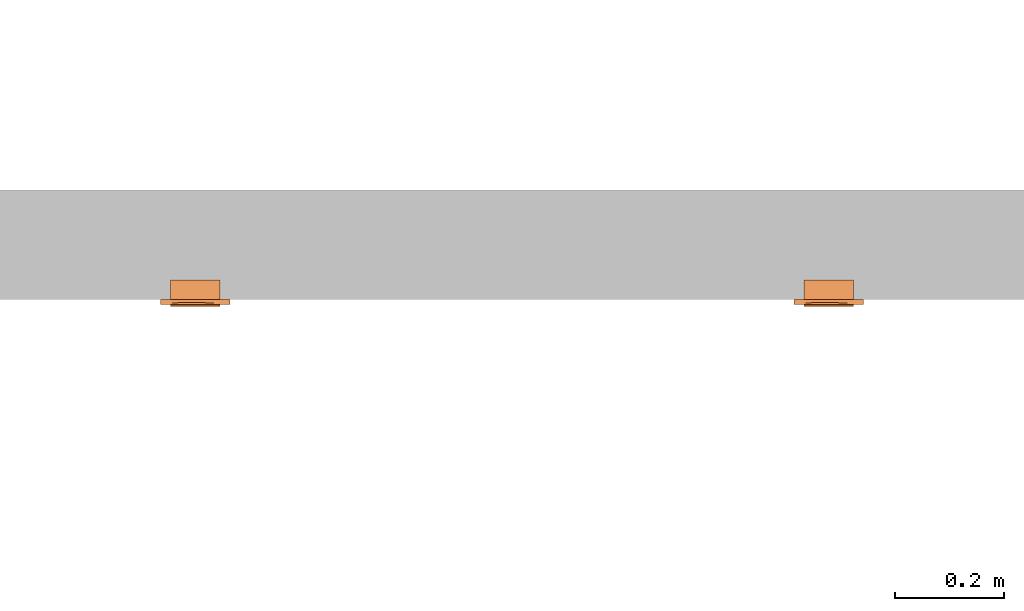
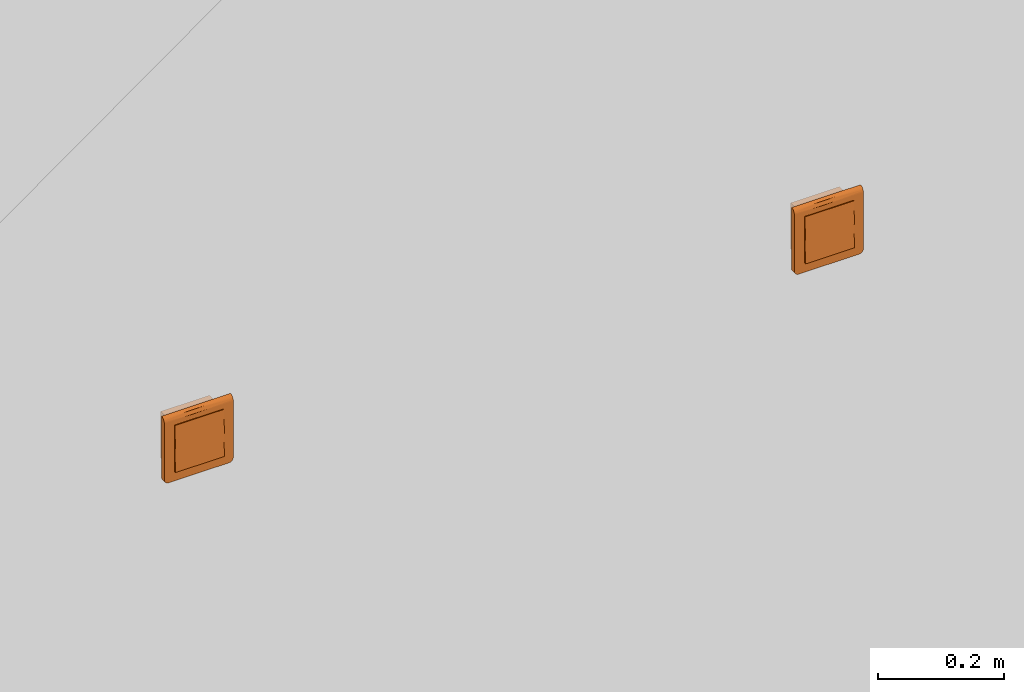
# One storey, part 176 of 197: 2 proxies.
"""IFC2X3 building model written with IfcOpenShell, lengths in metres."""

import ifcopenshell
import ifcopenshell.guid

model = None  # the IFC model being written
_history = None  # IfcOwnerHistory: only IFC2X3 demands one
_inside = {}  # id of a spatial element -> (the spatial element, [elements in it])
_under = {}  # id of a project, library or spatial element -> (it, [spatial elements below it])
_declared = {}  # id of a project -> (the project, [libraries it declares])
_typed = {}  # id of a type object -> (the type object, [elements of that type])
_made_of = {}  # id of a material, layer set ... -> (it, [elements and type objects made of it])


def new_model(schema):
    """Start an empty IFC model of exactly this schema.

    Asked for "IFC4X3", IfcOpenShell would pick the latest addendum, in which some entities
    have other attributes; the version numbers below select the first issue.
    IFC2X3 requires an IfcOwnerHistory on every rooted entity: one is made here for all.
    """
    global model, _history
    if schema == "IFC4X3":
        model = ifcopenshell.file(schema_version=(4, 3, 0, 0))
    else:
        model = ifcopenshell.file(schema=schema)
    _inside.clear()
    _under.clear()
    _declared.clear()
    _typed.clear()
    _made_of.clear()
    _history = None
    if model.schema == "IFC2X3":
        org = make("IfcOrganization", Name="unknown")
        user = make(
            "IfcPersonAndOrganization",
            ThePerson=make("IfcPerson", FamilyName="unknown"),
            TheOrganization=org,
        )
        app = make(
            "IfcApplication",
            ApplicationDeveloper=org,
            Version="unknown",
            ApplicationFullName="unknown",
            ApplicationIdentifier="unknown",
        )
        _history = make(
            "IfcOwnerHistory",
            OwningUser=user,
            OwningApplication=app,
            ChangeAction="ADDED",
            CreationDate=0,
        )
    return model


def make(cls, **values):
    """One entity of the class cls with the attributes given. An attribute that is None is left unset."""
    return model.create_entity(
        cls, **{name: value for name, value in values.items() if value is not None}
    )


def entity(cls, *values):
    """Any entity or typed value of the class cls, its attributes in the order of the schema. None: left unset."""
    e = model.create_entity(cls)
    for i, value in enumerate(values):
        if value is not None:
            e[i] = value
    return e


def rooted(cls, **values):
    """An entity with a GlobalId (a new one), such as an element, a storey or a relation."""
    return make(cls, GlobalId=ifcopenshell.guid.new(), OwnerHistory=_history, **values)


def si_unit(unit_type, name, prefix=None):
    """IfcSIUnit, for example si_unit("LENGTHUNIT", "METRE", prefix="MILLI")."""
    return make("IfcSIUnit", UnitType=unit_type, Prefix=prefix, Name=name)


def converted_unit(unit_type, name, factor, base, dimensions=None, offset=None):
    """IfcConversionBasedUnit, such as the inch: factor (a typed value) times the base unit."""
    return make(
        "IfcConversionBasedUnit"
        if offset is None
        else "IfcConversionBasedUnitWithOffset",
        ConversionOffset=offset,
        Dimensions=None
        if dimensions is None
        else entity("IfcDimensionalExponents", *dimensions),
        UnitType=unit_type,
        Name=name,
        ConversionFactor=make(
            "IfcMeasureWithUnit", ValueComponent=factor, UnitComponent=base
        ),
    )


def assignment(units):
    """IfcUnitAssignment: the units of a project."""
    return None if units is None else make("IfcUnitAssignment", Units=units)


def point(xyz):
    """IfcCartesianPoint."""
    return None if xyz is None else make("IfcCartesianPoint", Coordinates=xyz)


def direction(xyz):
    """IfcDirection."""
    return None if xyz is None else make("IfcDirection", DirectionRatios=xyz)


def frame(location, z_axis=None, x_axis=None):
    """IfcAxis2Placement3D, a coordinate frame: its origin and axes. An axis left out is left unset."""
    return make(
        "IfcAxis2Placement3D",
        Location=point(location),
        Axis=direction(z_axis),
        RefDirection=direction(x_axis),
    )


def origin():
    """The frame at (0, 0, 0) with its axes left unset."""
    return frame((0.0, 0.0, 0.0))


def place(relative_to, where):
    """IfcLocalPlacement: puts the frame where relative to a parent placement (None: the world)."""
    return make(
        "IfcLocalPlacement", PlacementRelTo=relative_to, RelativePlacement=where
    )


def context(
    kind, dimensions, precision=None, world=None, true_north=None, identifier=None
):
    """IfcGeometricRepresentationContext, for example the 3D "Model" context."""
    return make(
        "IfcGeometricRepresentationContext",
        ContextIdentifier=identifier,
        ContextType=kind,
        CoordinateSpaceDimension=dimensions,
        Precision=precision,
        WorldCoordinateSystem=world,
        TrueNorth=true_north,
    )


def subcontext(parent, identifier, kind, view, scale=None):
    """IfcGeometricRepresentationSubContext, for example "Body" below "Model"."""
    return make(
        "IfcGeometricRepresentationSubContext",
        ContextIdentifier=identifier,
        ContextType=kind,
        ParentContext=parent,
        TargetScale=scale,
        TargetView=view,
    )


def project(units=None, contexts=None):
    """IfcProject with its units and contexts."""
    return rooted(
        "IfcProject",
        Name="project",
        RepresentationContexts=contexts,
        UnitsInContext=assignment(units),
    )


def spatial(cls, under=None, at=None, **own):
    """A site, building, storey or space (cls), placed at a placement, below another one or the project."""
    s = rooted(cls, ObjectPlacement=at, **own)
    if under is not None:
        _under.setdefault(under.id(), (under, []))[1].append(s)
    return s


def faces_of(points, faces, orient=None, outer=None):
    """IfcFace entities. A face is a list of loops; a loop is a list of indices into points, from 0.

    orient and outer hold one flag for each loop. By default every Orientation is true, the
    first loop of a face is its IfcFaceOuterBound and the others are IfcFaceBound.
    """
    made = []
    for i, loops in enumerate(faces):
        bounds = []
        for j, loop in enumerate(loops):
            is_outer = j == 0 if outer is None else outer[i][j]
            bounds.append(
                make(
                    "IfcFaceOuterBound" if is_outer else "IfcFaceBound",
                    Bound=make("IfcPolyLoop", Polygon=[points[k] for k in loop]),
                    Orientation=True if orient is None else orient[i][j],
                )
            )
        made.append(make("IfcFace", Bounds=bounds))
    return made


def faceted_brep(points, faces, orient=None, outer=None, voids=None):
    """IfcFacetedBrep: a solid bounded by flat faces; with voids (closed shells), ...WithVoids."""
    shared = [point(p) for p in points]
    hull = make("IfcClosedShell", CfsFaces=faces_of(shared, faces, orient, outer))
    if voids is None:
        return make("IfcFacetedBrep", Outer=hull)
    return make(
        "IfcFacetedBrepWithVoids",
        Outer=hull,
        Voids=[
            make(cls, CfsFaces=faces_of(shared, fs, o, b)) for cls, fs, o, b in voids
        ],
    )


def shape(context_of_items, identifier, shape_type, items):
    """IfcShapeRepresentation: the items that make up one representation, for example the "Body"."""
    return make(
        "IfcShapeRepresentation",
        ContextOfItems=context_of_items,
        RepresentationIdentifier=identifier,
        RepresentationType=shape_type,
        Items=items,
    )


def source(mapping_origin, context_of_items, identifier, shape_type, items):
    """IfcRepresentationMap: a shape defined once, which mapped items show again and again."""
    return make(
        "IfcRepresentationMap",
        MappingOrigin=mapping_origin,
        MappedRepresentation=shape(context_of_items, identifier, shape_type, items),
    )


def transform(
    local_origin,
    x_axis=None,
    y_axis=None,
    z_axis=None,
    scale=None,
    scale2=None,
    scale3=None,
    uniform=True,
):
    """IfcCartesianTransformationOperator3D, or its non-uniform kind. x_axis, y_axis, z_axis: its Axis1, 2, 3."""
    if uniform:
        return make(
            "IfcCartesianTransformationOperator3D",
            Axis1=direction(x_axis),
            Axis2=direction(y_axis),
            LocalOrigin=point(local_origin),
            Scale=scale,
            Axis3=direction(z_axis),
        )
    return make(
        "IfcCartesianTransformationOperator3DnonUniform",
        Axis1=direction(x_axis),
        Axis2=direction(y_axis),
        LocalOrigin=point(local_origin),
        Scale=scale,
        Axis3=direction(z_axis),
        Scale2=scale2,
        Scale3=scale3,
    )


def mapped(mapping_source, mapping_target):
    """IfcMappedItem: shows the shape of a source again, moved by a transform."""
    return make(
        "IfcMappedItem", MappingSource=mapping_source, MappingTarget=mapping_target
    )


def material(Name=None, Category=None):
    """IfcMaterial."""
    return make("IfcMaterial", Name=Name, Category=Category)


def material_list(materials):
    """IfcMaterialList."""
    return make("IfcMaterialList", Materials=materials)


def made_of(thing, what):
    """Note that an element or type object is made of a material, layer set ...; save() writes the relation."""
    if what is not None:
        _made_of.setdefault(what.id(), (what, []))[1].append(thing)
    return thing


def type_object(cls, material=None, **own):
    """A type object (cls), such as IfcWallType, which elements share."""
    return made_of(rooted(cls, **own), material)


def type_shapes(of_type, sources):
    """Give a type object the sources (RepresentationMaps) that its elements show as mapped items."""
    of_type.RepresentationMaps = sources


def element(
    cls,
    number,
    at=None,
    inside=None,
    cuts=None,
    type_object=None,
    material=None,
    context=None,
    identifier="Body",
    shape_type=None,
    held_by="IfcProductDefinitionShape",
    body=None,
    shapes=None,
    **own,
):
    """One element of the class cls, such as IfcWall. Its Tag is "e" and its number.

    at: its placement. inside: the storey or other place that contains it. cuts: it is an
    opening in that element (IfcRelVoidsElement). A single representation is given by context,
    identifier, shape_type and body (its items); several are given by shapes. held_by: the class
    of the entity that holds the representations. save() writes the other relations.
    """
    e = rooted(cls, Tag="e%d" % number, ObjectPlacement=at, **own)
    if body is not None:
        shapes = [shape(context, identifier, shape_type, body)]
    if shapes is not None:
        e.Representation = make(held_by, Representations=shapes)
    if inside is not None:
        _inside.setdefault(inside.id(), (inside, []))[1].append(e)
    if cuts is not None:
        rooted(
            "IfcRelVoidsElement", RelatingBuildingElement=cuts, RelatedOpeningElement=e
        )
    if type_object is not None:
        _typed.setdefault(type_object.id(), (type_object, []))[1].append(e)
    return made_of(e, material)


def aggregate(whole, parts):
    """IfcRelAggregates: a whole, such as a stair, and the parts it consists of."""
    return rooted("IfcRelAggregates", RelatingObject=whole, RelatedObjects=parts)


def save(model, path):
    """Write the relations noted so far, then the file.

    IfcRelAggregates (storeys below a building ...), IfcRelContainedInSpatialStructure (elements
    in a storey), IfcRelDefinesByType, IfcRelAssociatesMaterial and IfcRelDeclares: one each for
    every whole, place, type object, material and project.
    """
    for whole, parts in _under.values():
        aggregate(whole, parts)
    for where, things in _inside.values():
        rooted(
            "IfcRelContainedInSpatialStructure",
            RelatedElements=things,
            RelatingStructure=where,
        )
    for kind, things in _typed.values():
        rooted("IfcRelDefinesByType", RelatedObjects=things, RelatingType=kind)
    for what, things in _made_of.values():
        rooted("IfcRelAssociatesMaterial", RelatedObjects=things, RelatingMaterial=what)
    for by, libraries in _declared.values():
        rooted("IfcRelDeclares", RelatingContext=by, RelatedDefinitions=libraries)
    model.write(path)


model = new_model("IFC2X3")

# Units and contexts
model_context = context("Model", 3, precision=1e-05, world=origin(), true_north=direction((6.123031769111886e-17, 1.0)))
body_context = subcontext(model_context, "Body", "Model", "MODEL_VIEW")
ifc_project = project(units=[si_unit("LENGTHUNIT", "METRE"), converted_unit("PLANEANGLEUNIT", "DEGREE", entity("IfcPlaneAngleMeasure", 0.017453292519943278), si_unit("PLANEANGLEUNIT", "RADIAN"), dimensions=[0, 0, 0, 0, 0, 0, 0]), si_unit("AREAUNIT", "SQUARE_METRE")], contexts=[model_context])

# Site, building, storey
site_placement = place(None, origin())
site = spatial("IfcSite", under=ifc_project, at=site_placement, Name="Default", CompositionType="ELEMENT")
building_placement = place(site_placement, origin())
building = spatial("IfcBuilding", under=site, at=building_placement, CompositionType="ELEMENT")
storey_placement = place(building_placement, origin())
storey = spatial("IfcBuildingStorey", under=building, at=storey_placement, Name="Niveau 0", CompositionType="ELEMENT", Elevation=0.0)

# Proxies
ifc_material_1 = material(Name="<Unnamed>")
ifc_material_2 = material(Name="BETCE-DOIGT-BLANC")
ifc_material_3 = material(Name="BETCE-ENJOLIVEUR-BLANC")
ifc_material_list = material_list([ifc_material_1, ifc_material_2, ifc_material_3])
building_element_proxy_type_1 = type_object("IfcBuildingElementProxyType", Name="Tableau commande 2x4 modules encastré:5 BP + 3 SA", PredefinedType="NOTDEFINED", material=ifc_material_list)
shared_shape_1 = source(origin(), body_context, "Body", "Brep", [
    faceted_brep([(0.04499999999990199, 0.0, 0.0), (0.04499999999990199, 0.03499999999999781, 0.0), (0.022499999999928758, 0.03499999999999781, 0.0), (0.022499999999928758, 0.0, 0.0), (0.04499999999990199, 0.0, -0.045000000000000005), (0.022499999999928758, 0.0, -0.045000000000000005), (0.022499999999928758, 0.03499999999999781, -0.045000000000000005), (0.04499999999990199, 0.03499999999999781, -0.045000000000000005)], [[[0, 1, 2, 3]], [[4, 5, 6, 7]], [[1, 0, 4, 7]], [[2, 1, 7, 6]], [[3, 2, 6, 5]], [[0, 3, 5, 4]]]),
    faceted_brep([(0.04499999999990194, 0.0, 0.045000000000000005), (0.04499999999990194, 0.03499999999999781, 0.045000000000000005), (0.022499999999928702, 0.03499999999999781, 0.045000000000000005), (0.022499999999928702, 0.0, 0.045000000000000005), (0.04499999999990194, 0.0, 0.0), (0.022499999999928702, 0.0, 0.0), (0.022499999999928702, 0.03499999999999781, 0.0), (0.04499999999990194, 0.03499999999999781, 0.0)], [[[0, 1, 2, 3]], [[4, 5, 6, 7]], [[1, 0, 4, 7]], [[2, 1, 7, 6]], [[3, 2, 6, 5]], [[0, 3, 5, 4]]]),
    faceted_brep([(0.022499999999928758, 0.0, 0.0), (0.022499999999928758, 0.03499999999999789, 0.0), (0.0, 0.03499999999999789, 0.0), (0.0, 0.0, 0.0), (0.022499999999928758, 0.0, -0.045000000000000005), (0.0, 0.0, -0.045000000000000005), (0.0, 0.03499999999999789, -0.045000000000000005), (0.022499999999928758, 0.03499999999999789, -0.045000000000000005)], [[[0, 1, 2, 3]], [[4, 5, 6, 7]], [[1, 0, 4, 7]], [[2, 1, 7, 6]], [[3, 2, 6, 5]], [[0, 3, 5, 4]]]),
    faceted_brep([(0.0224999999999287, 0.0, 0.045000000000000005), (0.0224999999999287, 0.03499999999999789, 0.045000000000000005), (0.0, 0.03499999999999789, 0.045000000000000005), (0.0, 0.0, 0.045000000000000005), (0.0224999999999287, 0.0, 0.0), (0.0, 0.0, 0.0), (0.0, 0.03499999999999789, 0.0), (0.0224999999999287, 0.03499999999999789, 0.0)], [[[0, 1, 2, 3]], [[4, 5, 6, 7]], [[1, 0, 4, 7]], [[2, 1, 7, 6]], [[3, 2, 6, 5]], [[0, 3, 5, 4]]]),
    faceted_brep([(0.0, 0.0, 0.0), (0.0, 0.034999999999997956, 0.0), (-0.022500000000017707, 0.034999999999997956, 0.0), (-0.022500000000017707, 0.0, 0.0), (0.0, 0.0, -0.045000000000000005), (-0.022500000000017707, 0.0, -0.045000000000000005), (-0.022500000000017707, 0.034999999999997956, -0.045000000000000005), (0.0, 0.034999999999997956, -0.045000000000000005)], [[[0, 1, 2, 3]], [[4, 5, 6, 7]], [[1, 0, 4, 7]], [[2, 1, 7, 6]], [[3, 2, 6, 5]], [[0, 3, 5, 4]]]),
    faceted_brep([(0.0, 0.0, 0.045000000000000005), (0.0, 0.034999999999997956, 0.045000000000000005), (-0.022500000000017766, 0.034999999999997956, 0.045000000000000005), (-0.022500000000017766, 0.0, 0.045000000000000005), (0.0, 0.0, 0.0), (-0.022500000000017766, 0.0, 0.0), (-0.022500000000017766, 0.034999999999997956, 0.0), (0.0, 0.034999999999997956, 0.0)], [[[0, 1, 2, 3]], [[4, 5, 6, 7]], [[1, 0, 4, 7]], [[2, 1, 7, 6]], [[3, 2, 6, 5]], [[0, 3, 5, 4]]]),
    faceted_brep([(-0.02250000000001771, 0.0, 0.0), (-0.02250000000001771, 0.034999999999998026, 0.0), (-0.044999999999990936, 0.034999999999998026, 0.0), (-0.044999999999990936, 0.0, 0.0), (-0.02250000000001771, 0.0, -0.045000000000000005), (-0.044999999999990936, 0.0, -0.045000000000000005), (-0.044999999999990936, 0.034999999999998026, -0.045000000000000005), (-0.02250000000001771, 0.034999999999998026, -0.045000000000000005)], [[[0, 1, 2, 3]], [[4, 5, 6, 7]], [[1, 0, 4, 7]], [[2, 1, 7, 6]], [[3, 2, 6, 5]], [[0, 3, 5, 4]]]),
    faceted_brep([(-0.022500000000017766, 0.0, 0.045000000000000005), (-0.022500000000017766, 0.034999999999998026, 0.045000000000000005), (-0.044999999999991, 0.034999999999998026, 0.045000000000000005), (-0.044999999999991, 0.0, 0.045000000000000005), (-0.022500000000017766, 0.0, 0.0), (-0.044999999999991, 0.0, 0.0), (-0.044999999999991, 0.034999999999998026, 0.0), (-0.022500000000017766, 0.034999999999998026, 0.0)], [[[0, 1, 2, 3]], [[4, 5, 6, 7]], [[1, 0, 4, 7]], [[2, 1, 7, 6]], [[3, 2, 6, 5]], [[0, 3, 5, 4]]]),
    faceted_brep([(0.022499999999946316, 0.0, -0.045000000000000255), (0.022499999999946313, 0.0, 0.0), (0.04499999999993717, 0.0, 0.0), (0.04499999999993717, 0.0, -0.045000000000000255), (0.022499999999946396, -0.012750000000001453, -0.045000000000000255), (0.022499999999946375, -0.010500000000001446, 0.0), (0.044999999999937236, -0.010500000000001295, 0.0), (0.04499999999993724, -0.012750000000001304, -0.045000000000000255)], [[[0, 1, 2, 3]], [[1, 0, 4, 5]], [[2, 1, 5, 6]], [[3, 2, 6, 7]], [[0, 3, 7, 4]], [[5, 4, 7, 6]]]),
    faceted_brep([(0.0, 0.0, -0.04500000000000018), (0.0, 0.0, 0.0), (0.022499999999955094, 0.0, 0.0), (0.022499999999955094, 0.0, -0.04500000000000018), (0.0, -0.012750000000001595, -0.04500000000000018), (0.0, -0.010500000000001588, 0.0), (0.022499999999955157, -0.01050000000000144, 0.0), (0.022499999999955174, -0.012750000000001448, -0.04500000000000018)], [[[0, 1, 2, 3]], [[1, 0, 4, 5]], [[2, 1, 5, 6]], [[3, 2, 6, 7]], [[0, 3, 7, 4]], [[5, 4, 7, 6]]]),
    faceted_brep([(-0.022500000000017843, 0.0, -0.0450000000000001), (-0.022500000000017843, 0.0, 0.0), (0.0, 0.0, 0.0), (0.0, 0.0, -0.0450000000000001), (-0.02250000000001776, -0.012750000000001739, -0.0450000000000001), (-0.022500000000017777, -0.010500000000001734, 0.0), (0.0, -0.010500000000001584, 0.0), (0.0, -0.012750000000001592, -0.0450000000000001)], [[[0, 1, 2, 3]], [[1, 0, 4, 5]], [[2, 1, 5, 6]], [[3, 2, 6, 7]], [[0, 3, 7, 4]], [[5, 4, 7, 6]]]),
    faceted_brep([(-0.04499999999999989, 0.0, -0.045000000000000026), (-0.04499999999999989, 0.0, 0.0), (-0.022500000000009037, 0.0, 0.0), (-0.022500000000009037, 0.0, -0.045000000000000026), (-0.04499999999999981, -0.012750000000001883, -0.045000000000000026), (-0.04499999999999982, -0.010500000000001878, 0.0), (-0.022500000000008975, -0.01050000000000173, 0.0), (-0.022500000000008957, -0.012750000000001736, -0.045000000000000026)], [[[0, 1, 2, 3]], [[1, 0, 4, 5]], [[2, 1, 5, 6]], [[3, 2, 6, 7]], [[0, 3, 7, 4]], [[5, 4, 7, 6]]]),
    faceted_brep([(0.02249999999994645, -0.010500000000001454, 0.04499999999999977), (0.022499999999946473, -0.012750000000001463, 0.0), (0.04499999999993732, -0.012750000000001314, 0.0), (0.044999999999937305, -0.010500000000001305, 0.04499999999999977), (0.022499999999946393, 0.0, 0.0), (0.02249999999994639, 0.0, 0.04499999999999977), (0.04499999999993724, 0.0, 0.04499999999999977), (0.04499999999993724, 0.0, 0.0)], [[[0, 1, 2, 3]], [[4, 5, 6, 7]], [[5, 4, 1, 0]], [[6, 5, 0, 3]], [[7, 6, 3, 2]], [[4, 7, 2, 1]]]),
    faceted_brep([(0.0, -0.010500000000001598, 0.044999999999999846), (0.0, -0.012750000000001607, 0.0), (0.02249999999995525, -0.012750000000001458, 0.0), (0.022499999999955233, -0.010500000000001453, 0.044999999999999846), (0.0, 0.0, 0.0), (0.0, 0.0, 0.044999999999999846), (0.02249999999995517, 0.0, 0.04499999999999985), (0.02249999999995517, 0.0, 0.0)], [[[0, 1, 2, 3]], [[4, 5, 6, 7]], [[5, 4, 1, 0]], [[6, 5, 0, 3]], [[7, 6, 3, 2]], [[4, 7, 2, 1]]]),
    faceted_brep([(-0.0225000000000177, -0.010500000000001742, 0.04499999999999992), (-0.022500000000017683, -0.01275000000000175, 0.0), (0.0, -0.012750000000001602, 0.0), (0.0, -0.010500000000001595, 0.04499999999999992), (-0.022500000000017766, 0.0, 0.0), (-0.022500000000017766, 0.0, 0.04499999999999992), (0.0, 0.0, 0.04499999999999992), (0.0, 0.0, 0.0)], [[[0, 1, 2, 3]], [[4, 5, 6, 7]], [[5, 4, 1, 0]], [[6, 5, 0, 3]], [[7, 6, 3, 2]], [[4, 7, 2, 1]]]),
    faceted_brep([(-0.044999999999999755, -0.010500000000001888, 0.045), (-0.044999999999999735, -0.012750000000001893, 0.0), (-0.02250000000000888, -0.012750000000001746, 0.0), (-0.0225000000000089, -0.010500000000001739, 0.045), (-0.04499999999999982, 0.0, 0.0), (-0.04499999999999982, 0.0, 0.045), (-0.022500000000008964, 0.0, 0.045000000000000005), (-0.022500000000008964, 0.0, 0.0)], [[[0, 1, 2, 3]], [[4, 5, 6, 7]], [[5, 4, 1, 0]], [[6, 5, 0, 3]], [[7, 6, 3, 2]], [[4, 7, 2, 1]]]),
    faceted_brep([(0.06350000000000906, -0.009000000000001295, -0.055500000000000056), (0.06350000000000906, -0.009000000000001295, 0.05450000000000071), (0.045000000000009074, -0.00900000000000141, -0.045000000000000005), (0.055500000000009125, -0.009000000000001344, -0.06350000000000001), (0.057570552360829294, -0.009000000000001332, -0.06322740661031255), (0.06322740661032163, -0.009000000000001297, -0.05757055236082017), (0.04500000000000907, -0.00900000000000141, 0.045), (-0.044999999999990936, -0.00900000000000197, 0.045000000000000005), (-0.01112442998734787, -0.009000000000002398, 0.054500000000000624), (-0.06349999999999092, -0.009000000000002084, 0.05450000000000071), (-0.044999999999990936, -0.00900000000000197, -0.045000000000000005), (-0.06349999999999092, -0.009000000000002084, -0.05550000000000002), (-0.055499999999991, -0.009000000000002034, -0.06350000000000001), (-0.0575705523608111, -0.009000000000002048, -0.06322740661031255), (-0.06322740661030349, -0.009000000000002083, -0.05757055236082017), (-0.05949999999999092, -0.00900000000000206, -0.062428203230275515), (-0.062428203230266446, -0.009000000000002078, -0.05950000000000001), (-0.06115685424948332, -0.00900000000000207, -0.06115685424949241), (0.059500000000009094, -0.00900000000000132, -0.062428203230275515), (0.062428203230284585, -0.009000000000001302, -0.05949999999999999), (0.06115685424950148, -0.009000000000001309, -0.061156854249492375), (-0.063499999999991, 0.0, -0.05550000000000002), (-0.063499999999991, 0.0, 0.06350000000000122), (-0.044999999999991, 0.0, 0.045000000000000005), (-0.044999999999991, 0.0, -0.045000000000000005), (-0.055499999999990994, 0.0, -0.06350000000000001), (-0.06322740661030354, 0.0, -0.05757055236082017), (0.045000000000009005, 0.0, 0.045000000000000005), (0.011124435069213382, 0.0, 0.06350000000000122), (0.06350000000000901, 0.0, 0.0635), (0.06350000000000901, 0.0, -0.05550000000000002), (0.045000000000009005, 0.0, -0.045000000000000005), (0.05550000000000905, 0.0, -0.06350000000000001), (0.06322740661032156, 0.0, -0.05757055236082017), (0.057570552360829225, 0.0, -0.06322740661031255), (0.06242820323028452, 0.0, -0.05949999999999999), (0.05950000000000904, 0.0, -0.062428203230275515), (0.06115685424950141, 0.0, -0.061156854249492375), (-0.05757055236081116, 0.0, -0.06322740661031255), (-0.0624282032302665, 0.0, -0.05950000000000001), (-0.059499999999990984, 0.0, -0.062428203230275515), (-0.06115685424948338, 0.0, -0.06115685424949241), (0.06350000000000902, -0.00232937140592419, 0.06319333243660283), (0.06350000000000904, -0.004500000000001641, 0.06229422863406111), (0.06350000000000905, -0.006363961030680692, 0.06086396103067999), (0.06350000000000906, -0.007794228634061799, 0.05900000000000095), (0.06350000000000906, -0.008693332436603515, 0.056829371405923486), (-0.06349999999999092, -0.00869333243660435, 0.0568293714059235), (-0.06349999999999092, -0.007794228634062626, 0.059000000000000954), (-0.06349999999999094, -0.006363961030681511, 0.06086396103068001), (-0.06349999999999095, -0.004500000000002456, 0.062294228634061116), (-0.06349999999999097, -0.002329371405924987, 0.06319333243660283), (-0.010857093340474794, -0.006120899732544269, 0.06109807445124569)], [[[0, 1, 2]], [[3, 0, 2]], [[0, 3, 4]], [[5, 0, 4]], [[2, 1, 6]], [[1, 7, 6]], [[7, 1, 8]], [[7, 8, 9]], [[10, 7, 9]], [[11, 10, 9]], [[12, 10, 11]], [[12, 11, 13]], [[13, 11, 14]], [[15, 13, 14]], [[16, 15, 14]], [[15, 16, 17]], [[10, 12, 3]], [[2, 10, 3]], [[5, 4, 18]], [[5, 18, 19]], [[20, 19, 18]], [[21, 22, 23]], [[24, 21, 23]], [[25, 21, 24]], [[26, 21, 25]], [[22, 27, 23]], [[27, 22, 28]], [[27, 28, 29]], [[30, 27, 29]], [[31, 27, 30]], [[32, 31, 30]], [[32, 30, 33]], [[32, 33, 34]], [[33, 35, 34]], [[35, 36, 34]], [[36, 35, 37]], [[31, 32, 25]], [[26, 25, 38]], [[24, 31, 25]], [[39, 26, 38]], [[39, 38, 40]], [[41, 39, 40]], [[1, 0, 30, 29, 42, 43, 44, 45, 46]], [[33, 30, 0, 5]], [[35, 33, 5, 19]], [[37, 35, 19, 20]], [[36, 37, 20, 18]], [[34, 36, 18, 4]], [[32, 34, 4, 3]], [[25, 32, 3, 12]], [[38, 25, 12, 13]], [[40, 38, 13, 15]], [[41, 40, 15, 17]], [[39, 41, 17, 16]], [[26, 39, 16, 14]], [[21, 26, 14, 11]], [[22, 21, 11, 9, 47, 48, 49, 50, 51]], [[24, 23, 7, 10]], [[31, 24, 10, 2]], [[27, 31, 2, 6]], [[23, 27, 6, 7]], [[52, 8, 45]], [[47, 9, 8]], [[1, 46, 8]], [[44, 52, 45]], [[46, 45, 8]], [[50, 52, 51]], [[48, 47, 8]], [[28, 52, 43]], [[48, 52, 49]], [[42, 29, 28]], [[28, 22, 51]], [[48, 8, 52]], [[28, 43, 42]], [[44, 43, 52]], [[52, 50, 49]], [[52, 28, 51]]]),
])
type_shapes(building_element_proxy_type_1, [shared_shape_1])
proxy_1_placement = place(storey_placement, frame((-358.47277966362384, 122.781355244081, 1.1)))
element("IfcBuildingElementProxy", 1, at=proxy_1_placement, inside=storey, type_object=building_element_proxy_type_1, material=ifc_material_list, Name="Tableau commande 2x4 modules encastré:5 BP + 3 SA", ObjectType="Tableau commande 2x4 modules encastré:5 BP + 3 SA", context=body_context, shape_type="MappedRepresentation", body=[
    mapped(shared_shape_1, transform((0.0, 0.0, 0.0), scale=1.0)),
])
building_element_proxy_type_2 = type_object("IfcBuildingElementProxyType", Name="Tableau commande 2x4 modules encastré:6 BP + 2 SA", PredefinedType="NOTDEFINED", material=ifc_material_list)
shared_shape_2 = source(origin(), body_context, "Body", "Brep", [
    faceted_brep([(0.04499999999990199, 0.0, 0.0), (0.04499999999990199, 0.03499999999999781, 0.0), (0.022499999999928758, 0.03499999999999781, 0.0), (0.022499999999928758, 0.0, 0.0), (0.04499999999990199, 0.0, -0.045000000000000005), (0.022499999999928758, 0.0, -0.045000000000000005), (0.022499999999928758, 0.03499999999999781, -0.045000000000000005), (0.04499999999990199, 0.03499999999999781, -0.045000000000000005)], [[[0, 1, 2, 3]], [[4, 5, 6, 7]], [[1, 0, 4, 7]], [[2, 1, 7, 6]], [[3, 2, 6, 5]], [[0, 3, 5, 4]]]),
    faceted_brep([(0.04499999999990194, 0.0, 0.045000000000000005), (0.04499999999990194, 0.03499999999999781, 0.045000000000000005), (0.022499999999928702, 0.03499999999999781, 0.045000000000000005), (0.022499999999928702, 0.0, 0.045000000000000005), (0.04499999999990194, 0.0, 0.0), (0.022499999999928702, 0.0, 0.0), (0.022499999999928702, 0.03499999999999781, 0.0), (0.04499999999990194, 0.03499999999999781, 0.0)], [[[0, 1, 2, 3]], [[4, 5, 6, 7]], [[1, 0, 4, 7]], [[2, 1, 7, 6]], [[3, 2, 6, 5]], [[0, 3, 5, 4]]]),
    faceted_brep([(0.022499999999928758, 0.0, 0.0), (0.022499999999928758, 0.03499999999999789, 0.0), (0.0, 0.03499999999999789, 0.0), (0.0, 0.0, 0.0), (0.022499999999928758, 0.0, -0.045000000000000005), (0.0, 0.0, -0.045000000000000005), (0.0, 0.03499999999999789, -0.045000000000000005), (0.022499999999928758, 0.03499999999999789, -0.045000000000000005)], [[[0, 1, 2, 3]], [[4, 5, 6, 7]], [[1, 0, 4, 7]], [[2, 1, 7, 6]], [[3, 2, 6, 5]], [[0, 3, 5, 4]]]),
    faceted_brep([(0.0224999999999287, 0.0, 0.045000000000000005), (0.0224999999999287, 0.03499999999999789, 0.045000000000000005), (0.0, 0.03499999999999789, 0.045000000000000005), (0.0, 0.0, 0.045000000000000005), (0.0224999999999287, 0.0, 0.0), (0.0, 0.0, 0.0), (0.0, 0.03499999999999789, 0.0), (0.0224999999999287, 0.03499999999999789, 0.0)], [[[0, 1, 2, 3]], [[4, 5, 6, 7]], [[1, 0, 4, 7]], [[2, 1, 7, 6]], [[3, 2, 6, 5]], [[0, 3, 5, 4]]]),
    faceted_brep([(0.0, 0.0, 0.0), (0.0, 0.034999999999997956, 0.0), (-0.022500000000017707, 0.034999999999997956, 0.0), (-0.022500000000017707, 0.0, 0.0), (0.0, 0.0, -0.045000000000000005), (-0.022500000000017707, 0.0, -0.045000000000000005), (-0.022500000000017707, 0.034999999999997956, -0.045000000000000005), (0.0, 0.034999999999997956, -0.045000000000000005)], [[[0, 1, 2, 3]], [[4, 5, 6, 7]], [[1, 0, 4, 7]], [[2, 1, 7, 6]], [[3, 2, 6, 5]], [[0, 3, 5, 4]]]),
    faceted_brep([(0.0, 0.0, 0.045000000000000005), (0.0, 0.034999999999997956, 0.045000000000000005), (-0.022500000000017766, 0.034999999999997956, 0.045000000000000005), (-0.022500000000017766, 0.0, 0.045000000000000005), (0.0, 0.0, 0.0), (-0.022500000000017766, 0.0, 0.0), (-0.022500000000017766, 0.034999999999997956, 0.0), (0.0, 0.034999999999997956, 0.0)], [[[0, 1, 2, 3]], [[4, 5, 6, 7]], [[1, 0, 4, 7]], [[2, 1, 7, 6]], [[3, 2, 6, 5]], [[0, 3, 5, 4]]]),
    faceted_brep([(-0.02250000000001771, 0.0, 0.0), (-0.02250000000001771, 0.034999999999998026, 0.0), (-0.044999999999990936, 0.034999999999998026, 0.0), (-0.044999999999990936, 0.0, 0.0), (-0.02250000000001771, 0.0, -0.045000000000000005), (-0.044999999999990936, 0.0, -0.045000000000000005), (-0.044999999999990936, 0.034999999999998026, -0.045000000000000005), (-0.02250000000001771, 0.034999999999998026, -0.045000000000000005)], [[[0, 1, 2, 3]], [[4, 5, 6, 7]], [[1, 0, 4, 7]], [[2, 1, 7, 6]], [[3, 2, 6, 5]], [[0, 3, 5, 4]]]),
    faceted_brep([(-0.022500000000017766, 0.0, 0.045000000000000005), (-0.022500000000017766, 0.034999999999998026, 0.045000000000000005), (-0.044999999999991, 0.034999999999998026, 0.045000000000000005), (-0.044999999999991, 0.0, 0.045000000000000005), (-0.022500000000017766, 0.0, 0.0), (-0.044999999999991, 0.0, 0.0), (-0.044999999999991, 0.034999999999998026, 0.0), (-0.022500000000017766, 0.034999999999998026, 0.0)], [[[0, 1, 2, 3]], [[4, 5, 6, 7]], [[1, 0, 4, 7]], [[2, 1, 7, 6]], [[3, 2, 6, 5]], [[0, 3, 5, 4]]]),
    faceted_brep([(0.022499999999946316, 0.0, -0.045000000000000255), (0.022499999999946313, 0.0, 0.0), (0.04499999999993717, 0.0, 0.0), (0.04499999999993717, 0.0, -0.045000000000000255), (0.022499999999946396, -0.012750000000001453, -0.045000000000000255), (0.022499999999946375, -0.010500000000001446, 0.0), (0.044999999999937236, -0.010500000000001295, 0.0), (0.04499999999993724, -0.012750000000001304, -0.045000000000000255)], [[[0, 1, 2, 3]], [[1, 0, 4, 5]], [[2, 1, 5, 6]], [[3, 2, 6, 7]], [[0, 3, 7, 4]], [[5, 4, 7, 6]]]),
    faceted_brep([(0.0, 0.0, -0.04500000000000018), (0.0, 0.0, 0.0), (0.022499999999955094, 0.0, 0.0), (0.022499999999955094, 0.0, -0.04500000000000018), (0.0, -0.012750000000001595, -0.04500000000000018), (0.0, -0.010500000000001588, 0.0), (0.022499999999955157, -0.01050000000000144, 0.0), (0.022499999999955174, -0.012750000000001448, -0.04500000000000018)], [[[0, 1, 2, 3]], [[1, 0, 4, 5]], [[2, 1, 5, 6]], [[3, 2, 6, 7]], [[0, 3, 7, 4]], [[5, 4, 7, 6]]]),
    faceted_brep([(-0.022500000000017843, 0.0, -0.0450000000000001), (-0.022500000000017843, 0.0, 0.0), (0.0, 0.0, 0.0), (0.0, 0.0, -0.0450000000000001), (-0.02250000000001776, -0.012750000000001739, -0.0450000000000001), (-0.022500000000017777, -0.010500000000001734, 0.0), (0.0, -0.010500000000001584, 0.0), (0.0, -0.012750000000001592, -0.0450000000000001)], [[[0, 1, 2, 3]], [[1, 0, 4, 5]], [[2, 1, 5, 6]], [[3, 2, 6, 7]], [[0, 3, 7, 4]], [[5, 4, 7, 6]]]),
    faceted_brep([(-0.04499999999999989, 0.0, -0.045000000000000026), (-0.04499999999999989, 0.0, 0.0), (-0.022500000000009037, 0.0, 0.0), (-0.022500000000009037, 0.0, -0.045000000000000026), (-0.04499999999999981, -0.012750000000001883, -0.045000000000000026), (-0.04499999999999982, -0.010500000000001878, 0.0), (-0.022500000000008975, -0.01050000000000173, 0.0), (-0.022500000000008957, -0.012750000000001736, -0.045000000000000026)], [[[0, 1, 2, 3]], [[1, 0, 4, 5]], [[2, 1, 5, 6]], [[3, 2, 6, 7]], [[0, 3, 7, 4]], [[5, 4, 7, 6]]]),
    faceted_brep([(0.02249999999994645, -0.010500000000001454, 0.04499999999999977), (0.022499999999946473, -0.012750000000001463, 0.0), (0.04499999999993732, -0.012750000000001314, 0.0), (0.044999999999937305, -0.010500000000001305, 0.04499999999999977), (0.022499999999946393, 0.0, 0.0), (0.02249999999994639, 0.0, 0.04499999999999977), (0.04499999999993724, 0.0, 0.04499999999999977), (0.04499999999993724, 0.0, 0.0)], [[[0, 1, 2, 3]], [[4, 5, 6, 7]], [[5, 4, 1, 0]], [[6, 5, 0, 3]], [[7, 6, 3, 2]], [[4, 7, 2, 1]]]),
    faceted_brep([(0.0, -0.010500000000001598, 0.044999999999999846), (0.0, -0.012750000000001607, 0.0), (0.02249999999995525, -0.012750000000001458, 0.0), (0.022499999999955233, -0.010500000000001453, 0.044999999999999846), (0.0, 0.0, 0.0), (0.0, 0.0, 0.044999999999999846), (0.02249999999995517, 0.0, 0.04499999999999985), (0.02249999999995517, 0.0, 0.0)], [[[0, 1, 2, 3]], [[4, 5, 6, 7]], [[5, 4, 1, 0]], [[6, 5, 0, 3]], [[7, 6, 3, 2]], [[4, 7, 2, 1]]]),
    faceted_brep([(-0.0225000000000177, -0.010500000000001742, 0.04499999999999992), (-0.022500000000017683, -0.01275000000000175, 0.0), (0.0, -0.012750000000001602, 0.0), (0.0, -0.010500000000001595, 0.04499999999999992), (-0.022500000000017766, 0.0, 0.0), (-0.022500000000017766, 0.0, 0.04499999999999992), (0.0, 0.0, 0.04499999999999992), (0.0, 0.0, 0.0)], [[[0, 1, 2, 3]], [[4, 5, 6, 7]], [[5, 4, 1, 0]], [[6, 5, 0, 3]], [[7, 6, 3, 2]], [[4, 7, 2, 1]]]),
    faceted_brep([(-0.044999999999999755, -0.010500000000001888, 0.045), (-0.044999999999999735, -0.012750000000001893, 0.0), (-0.02250000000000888, -0.012750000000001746, 0.0), (-0.0225000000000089, -0.010500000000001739, 0.045), (-0.04499999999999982, 0.0, 0.0), (-0.04499999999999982, 0.0, 0.045), (-0.022500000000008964, 0.0, 0.045000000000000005), (-0.022500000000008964, 0.0, 0.0)], [[[0, 1, 2, 3]], [[4, 5, 6, 7]], [[5, 4, 1, 0]], [[6, 5, 0, 3]], [[7, 6, 3, 2]], [[4, 7, 2, 1]]]),
    faceted_brep([(0.06350000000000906, -0.009000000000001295, -0.055500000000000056), (0.06350000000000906, -0.009000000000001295, 0.05450000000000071), (0.045000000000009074, -0.00900000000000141, -0.045000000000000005), (0.055500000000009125, -0.009000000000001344, -0.06350000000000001), (0.057570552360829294, -0.009000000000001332, -0.06322740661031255), (0.06322740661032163, -0.009000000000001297, -0.05757055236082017), (0.04500000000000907, -0.00900000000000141, 0.045), (-0.044999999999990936, -0.00900000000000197, 0.045000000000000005), (-0.01112442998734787, -0.009000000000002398, 0.054500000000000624), (-0.06349999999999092, -0.009000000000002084, 0.05450000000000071), (-0.044999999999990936, -0.00900000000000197, -0.045000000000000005), (-0.06349999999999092, -0.009000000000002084, -0.05550000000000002), (-0.055499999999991, -0.009000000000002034, -0.06350000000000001), (-0.0575705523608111, -0.009000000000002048, -0.06322740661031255), (-0.06322740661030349, -0.009000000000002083, -0.05757055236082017), (-0.05949999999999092, -0.00900000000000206, -0.062428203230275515), (-0.062428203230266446, -0.009000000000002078, -0.05950000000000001), (-0.06115685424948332, -0.00900000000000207, -0.06115685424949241), (0.059500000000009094, -0.00900000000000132, -0.062428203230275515), (0.062428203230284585, -0.009000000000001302, -0.05949999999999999), (0.06115685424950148, -0.009000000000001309, -0.061156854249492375), (-0.063499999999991, 0.0, -0.05550000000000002), (-0.063499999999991, 0.0, 0.06350000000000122), (-0.044999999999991, 0.0, 0.045000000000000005), (-0.044999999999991, 0.0, -0.045000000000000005), (-0.055499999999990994, 0.0, -0.06350000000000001), (-0.06322740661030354, 0.0, -0.05757055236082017), (0.045000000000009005, 0.0, 0.045000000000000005), (0.011124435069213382, 0.0, 0.06350000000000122), (0.06350000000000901, 0.0, 0.0635), (0.06350000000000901, 0.0, -0.05550000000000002), (0.045000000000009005, 0.0, -0.045000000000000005), (0.05550000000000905, 0.0, -0.06350000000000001), (0.06322740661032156, 0.0, -0.05757055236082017), (0.057570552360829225, 0.0, -0.06322740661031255), (0.06242820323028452, 0.0, -0.05949999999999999), (0.05950000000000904, 0.0, -0.062428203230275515), (0.06115685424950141, 0.0, -0.061156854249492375), (-0.05757055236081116, 0.0, -0.06322740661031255), (-0.0624282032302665, 0.0, -0.05950000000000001), (-0.059499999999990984, 0.0, -0.062428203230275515), (-0.06115685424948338, 0.0, -0.06115685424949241), (0.06350000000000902, -0.00232937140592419, 0.06319333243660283), (0.06350000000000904, -0.004500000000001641, 0.06229422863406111), (0.06350000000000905, -0.006363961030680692, 0.06086396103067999), (0.06350000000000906, -0.007794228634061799, 0.05900000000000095), (0.06350000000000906, -0.008693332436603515, 0.056829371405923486), (-0.06349999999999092, -0.00869333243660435, 0.0568293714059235), (-0.06349999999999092, -0.007794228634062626, 0.059000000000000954), (-0.06349999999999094, -0.006363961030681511, 0.06086396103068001), (-0.06349999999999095, -0.004500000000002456, 0.062294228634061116), (-0.06349999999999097, -0.002329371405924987, 0.06319333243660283), (-0.010857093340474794, -0.006120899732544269, 0.06109807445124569)], [[[0, 1, 2]], [[3, 0, 2]], [[0, 3, 4]], [[5, 0, 4]], [[2, 1, 6]], [[1, 7, 6]], [[7, 1, 8]], [[7, 8, 9]], [[10, 7, 9]], [[11, 10, 9]], [[12, 10, 11]], [[12, 11, 13]], [[13, 11, 14]], [[15, 13, 14]], [[16, 15, 14]], [[15, 16, 17]], [[10, 12, 3]], [[2, 10, 3]], [[5, 4, 18]], [[5, 18, 19]], [[20, 19, 18]], [[21, 22, 23]], [[24, 21, 23]], [[25, 21, 24]], [[26, 21, 25]], [[22, 27, 23]], [[27, 22, 28]], [[27, 28, 29]], [[30, 27, 29]], [[31, 27, 30]], [[32, 31, 30]], [[32, 30, 33]], [[32, 33, 34]], [[33, 35, 34]], [[35, 36, 34]], [[36, 35, 37]], [[31, 32, 25]], [[26, 25, 38]], [[24, 31, 25]], [[39, 26, 38]], [[39, 38, 40]], [[41, 39, 40]], [[1, 0, 30, 29, 42, 43, 44, 45, 46]], [[33, 30, 0, 5]], [[35, 33, 5, 19]], [[37, 35, 19, 20]], [[36, 37, 20, 18]], [[34, 36, 18, 4]], [[32, 34, 4, 3]], [[25, 32, 3, 12]], [[38, 25, 12, 13]], [[40, 38, 13, 15]], [[41, 40, 15, 17]], [[39, 41, 17, 16]], [[26, 39, 16, 14]], [[21, 26, 14, 11]], [[22, 21, 11, 9, 47, 48, 49, 50, 51]], [[24, 23, 7, 10]], [[31, 24, 10, 2]], [[27, 31, 2, 6]], [[23, 27, 6, 7]], [[52, 8, 45]], [[47, 9, 8]], [[1, 46, 8]], [[44, 52, 45]], [[46, 45, 8]], [[50, 52, 51]], [[48, 47, 8]], [[28, 52, 43]], [[48, 52, 49]], [[42, 29, 28]], [[28, 22, 51]], [[48, 8, 52]], [[28, 43, 42]], [[44, 43, 52]], [[52, 50, 49]], [[52, 28, 51]]]),
])
type_shapes(building_element_proxy_type_2, [shared_shape_2])
proxy_2_placement = place(storey_placement, frame((-357.31377966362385, 122.781355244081, 1.1)))
element("IfcBuildingElementProxy", 2, at=proxy_2_placement, inside=storey, type_object=building_element_proxy_type_2, material=ifc_material_list, Name="Tableau commande 2x4 modules encastré:6 BP + 2 SA", ObjectType="Tableau commande 2x4 modules encastré:6 BP + 2 SA", context=body_context, shape_type="MappedRepresentation", body=[
    mapped(shared_shape_2, transform((0.0, 0.0, 0.0), scale=1.0)),
])

save(model, "model.ifc")
